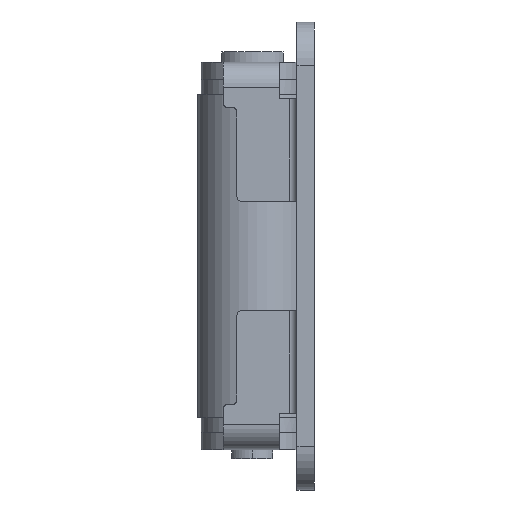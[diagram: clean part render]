
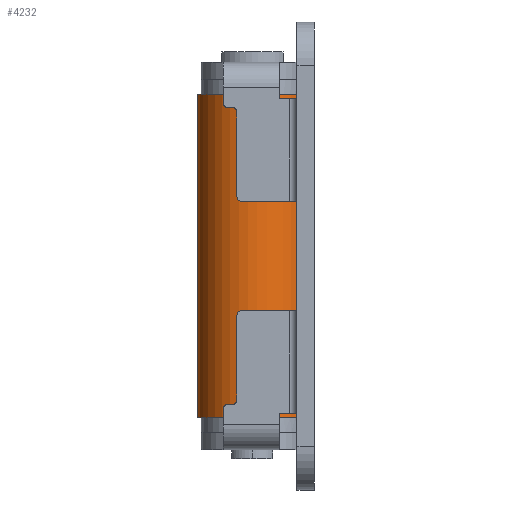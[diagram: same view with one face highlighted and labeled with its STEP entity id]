
A CAD part, left-side view. The second image highlights one B-rep face of the part: STEP entity #4232.
In plain terms, the highlighted cylindrical face has radius 3.75 mm (diameter 7.5 mm), a partial arc.
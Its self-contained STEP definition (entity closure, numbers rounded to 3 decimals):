
#34 = AXIS2_PLACEMENT_3D ( 'NONE', #3870, #3069, #5112 ) ;
#142 = DIRECTION ( 'NONE',  ( 0., 0., 1. ) ) ;
#233 = CARTESIAN_POINT ( 'NONE',  ( 0., 0., -2.5 ) ) ;
#416 = CIRCLE ( 'NONE', #3573, 3.75 ) ;
#467 = LINE ( 'NONE', #2894, #4093 ) ;
#486 = EDGE_CURVE ( 'NONE', #982, #2510, #416, .T. ) ;
#606 = EDGE_CURVE ( 'NONE', #3953, #2891, #761, .T. ) ;
#732 = CARTESIAN_POINT ( 'NONE',  ( 0., 0., 11.05 ) ) ;
#761 = CIRCLE ( 'NONE', #1456, 3.75 ) ;
#763 = ORIENTED_EDGE ( 'NONE', *, *, #2482, .T. ) ;
#797 = DIRECTION ( 'NONE',  ( 1., 0., 0. ) ) ;
#844 = DIRECTION ( 'NONE',  ( 1., 0., 0. ) ) ;
#982 = VERTEX_POINT ( 'NONE', #2012 ) ;
#1028 = VERTEX_POINT ( 'NONE', #3175 ) ;
#1177 = CARTESIAN_POINT ( 'NONE',  ( 0., 0., 2.5 ) ) ;
#1456 = AXIS2_PLACEMENT_3D ( 'NONE', #4536, #4485, #797 ) ;
#1484 = CIRCLE ( 'NONE', #4653, 3.75 ) ;
#1722 = CARTESIAN_POINT ( 'NONE',  ( 3.75, 0., -11.05 ) ) ;
#1904 = DIRECTION ( 'NONE',  ( 0., 0., 1. ) ) ;
#1985 = ORIENTED_EDGE ( 'NONE', *, *, #4449, .T. ) ;
#2012 = CARTESIAN_POINT ( 'NONE',  ( 3.462, 1.44, -2.5 ) ) ;
#2078 = ORIENTED_EDGE ( 'NONE', *, *, #2840, .T. ) ;
#2123 = DIRECTION ( 'NONE',  ( 0., 0., -1. ) ) ;
#2184 = LINE ( 'NONE', #2579, #4107 ) ;
#2234 = CARTESIAN_POINT ( 'NONE',  ( 3.75, 0., -2.5 ) ) ;
#2329 = ORIENTED_EDGE ( 'NONE', *, *, #3728, .T. ) ;
#2358 = EDGE_CURVE ( 'NONE', #5193, #982, #467, .T. ) ;
#2474 = AXIS2_PLACEMENT_3D ( 'NONE', #732, #1904, #4337 ) ;
#2478 = VERTEX_POINT ( 'NONE', #3463 ) ;
#2482 = EDGE_CURVE ( 'NONE', #2891, #2478, #3412, .T. ) ;
#2510 = VERTEX_POINT ( 'NONE', #2234 ) ;
#2564 = LINE ( 'NONE', #2584, #2627 ) ;
#2579 = CARTESIAN_POINT ( 'NONE',  ( 3.75, 0., 11.05 ) ) ;
#2584 = CARTESIAN_POINT ( 'NONE',  ( 3.75, 0., 11.05 ) ) ;
#2627 = VECTOR ( 'NONE', #3371, 1000. ) ;
#2686 = DIRECTION ( 'NONE',  ( 1., 0., 0. ) ) ;
#2700 = CYLINDRICAL_SURFACE ( 'NONE', #2474, 3.75 ) ;
#2828 = VERTEX_POINT ( 'NONE', #3650 ) ;
#2840 = EDGE_CURVE ( 'NONE', #2828, #5193, #1484, .T. ) ;
#2891 = VERTEX_POINT ( 'NONE', #5004 ) ;
#2894 = CARTESIAN_POINT ( 'NONE',  ( 3.462, 1.44, 11.05 ) ) ;
#2930 = DIRECTION ( 'NONE',  ( 0., 0., -1. ) ) ;
#3069 = DIRECTION ( 'NONE',  ( 0., 0., -1. ) ) ;
#3082 = DIRECTION ( 'NONE',  ( 0., 0., -1. ) ) ;
#3175 = CARTESIAN_POINT ( 'NONE',  ( 3.75, 0., 11.05 ) ) ;
#3371 = DIRECTION ( 'NONE',  ( 0., 0., -1. ) ) ;
#3412 = LINE ( 'NONE', #4287, #3834 ) ;
#3463 = CARTESIAN_POINT ( 'NONE',  ( -0.432, -3.725, 11.05 ) ) ;
#3573 = AXIS2_PLACEMENT_3D ( 'NONE', #233, #3082, #2686 ) ;
#3583 = ORIENTED_EDGE ( 'NONE', *, *, #606, .T. ) ;
#3650 = CARTESIAN_POINT ( 'NONE',  ( 3.75, 0., 2.5 ) ) ;
#3728 = EDGE_CURVE ( 'NONE', #2510, #3953, #2184, .T. ) ;
#3832 = CARTESIAN_POINT ( 'NONE',  ( 3.462, 1.44, 2.5 ) ) ;
#3834 = VECTOR ( 'NONE', #142, 1000. ) ;
#3847 = ORIENTED_EDGE ( 'NONE', *, *, #4023, .T. ) ;
#3870 = CARTESIAN_POINT ( 'NONE',  ( 0., 0., 11.05 ) ) ;
#3953 = VERTEX_POINT ( 'NONE', #1722 ) ;
#4023 = EDGE_CURVE ( 'NONE', #2478, #1028, #5122, .T. ) ;
#4093 = VECTOR ( 'NONE', #2123, 1000. ) ;
#4107 = VECTOR ( 'NONE', #2930, 1000. ) ;
#4232 = ADVANCED_FACE ( 'NONE', ( #4871 ), #2700, .T. ) ;
#4287 = CARTESIAN_POINT ( 'NONE',  ( -0.432, -3.725, 11.05 ) ) ;
#4337 = DIRECTION ( 'NONE',  ( 1., 0., 0. ) ) ;
#4449 = EDGE_CURVE ( 'NONE', #1028, #2828, #2564, .T. ) ;
#4485 = DIRECTION ( 'NONE',  ( 0., 0., 1. ) ) ;
#4495 = ORIENTED_EDGE ( 'NONE', *, *, #486, .T. ) ;
#4536 = CARTESIAN_POINT ( 'NONE',  ( 0., 0., -11.05 ) ) ;
#4653 = AXIS2_PLACEMENT_3D ( 'NONE', #1177, #5307, #844 ) ;
#4830 = EDGE_LOOP ( 'NONE', ( #1985, #2078, #5281, #4495, #2329, #3583, #763, #3847 ) ) ;
#4871 = FACE_OUTER_BOUND ( 'NONE', #4830, .T. ) ;
#5004 = CARTESIAN_POINT ( 'NONE',  ( -0.432, -3.725, -11.05 ) ) ;
#5112 = DIRECTION ( 'NONE',  ( 1., 0., 0. ) ) ;
#5122 = CIRCLE ( 'NONE', #34, 3.75 ) ;
#5193 = VERTEX_POINT ( 'NONE', #3832 ) ;
#5281 = ORIENTED_EDGE ( 'NONE', *, *, #2358, .T. ) ;
#5307 = DIRECTION ( 'NONE',  ( 0., 0., 1. ) ) ;
